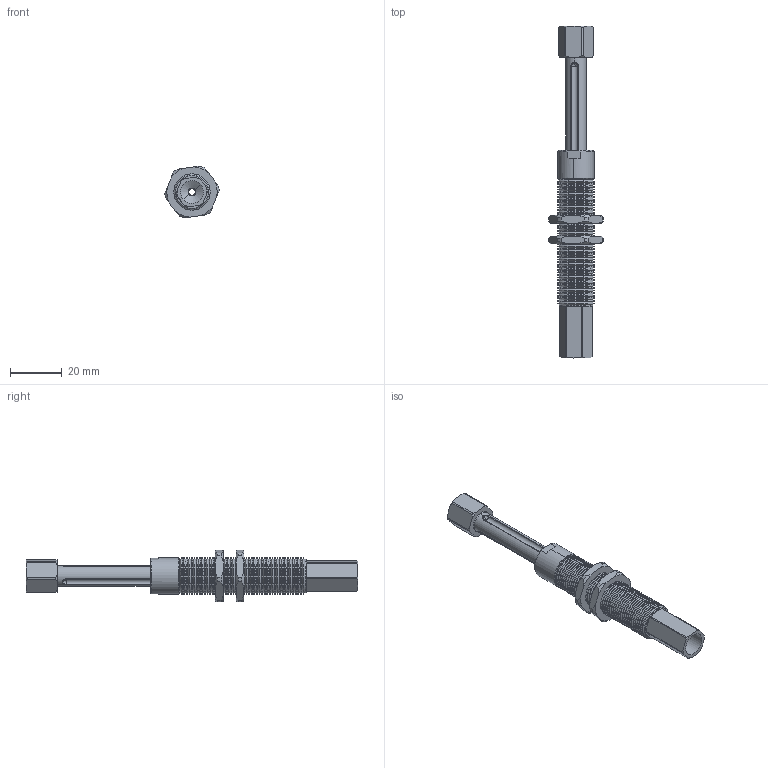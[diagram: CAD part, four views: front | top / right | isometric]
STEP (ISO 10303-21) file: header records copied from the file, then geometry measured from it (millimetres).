
FILE_DESCRIPTION (( 'STEP AP214' ), '1' );
FILE_NAME ('VFNT1436-G18.STEP', '2019-11-18T05:14:01', ( '微软用户' ), ( '微软中国' ), 'SwSTEP 2.0', 'SolidWorks 2016', '' );
FILE_SCHEMA (( 'AUTOMOTIVE_DESIGN' ));
Length unit declared in the file: millimetre
Products named in the file (1): VFNT1436-G18
Bounding box: 20.97 x 128 x 20.04 mm (x, y, z)
Volume: 12309.7 mm3; surface area: 13468.6 mm2
Topology: 6 solids, 6 shells, 632 faces, 1379 edges, 770 vertices
Faces by surface type: cone 344, cylinder 211, plane 57, sphere 12, bspline 6, torus 2
Entity records: 26804 total; most frequent: CARTESIAN_POINT 5900, DIRECTION 3119, ORIENTED_EDGE 2758, EDGE_CURVE 1379, AXIS2_PLACEMENT_3D 1261, VERTEX_POINT 770, EDGE_LOOP 661, UNCERTAINTY_MEASURE_WITH_UNIT 640
